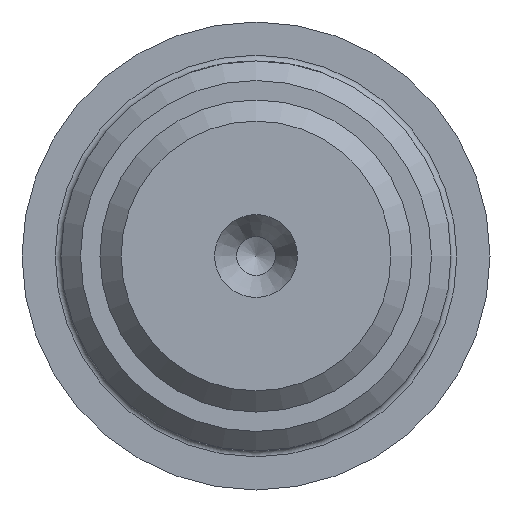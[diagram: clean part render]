
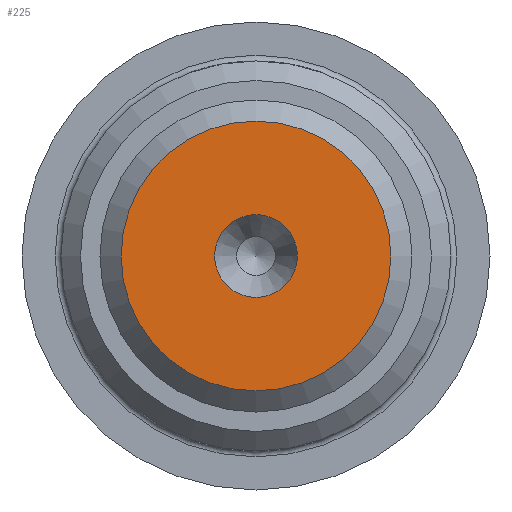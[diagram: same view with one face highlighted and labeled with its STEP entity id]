
A CAD part, left-side view. The second image highlights one B-rep face of the part: STEP entity #225.
In plain terms, the highlighted planar face has unit normal (-1, 0, 0).
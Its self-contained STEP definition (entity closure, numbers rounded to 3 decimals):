
#16=FACE_BOUND('',#55,.T.);
#21=PLANE('',#269);
#39=FACE_OUTER_BOUND('',#54,.T.);
#54=EDGE_LOOP('',(#177));
#55=EDGE_LOOP('',(#178));
#71=CIRCLE('',#263,2.125);
#74=CIRCLE('',#268,6.917);
#108=VERTEX_POINT('',#374);
#115=VERTEX_POINT('',#461);
#130=EDGE_CURVE('',#108,#108,#71,.T.);
#139=EDGE_CURVE('',#115,#115,#74,.T.);
#177=ORIENTED_EDGE('',*,*,#139,.F.);
#178=ORIENTED_EDGE('',*,*,#130,.T.);
#225=ADVANCED_FACE('',(#39,#16),#21,.T.);
#263=AXIS2_PLACEMENT_3D('',#376,#304,#305);
#268=AXIS2_PLACEMENT_3D('',#463,#316,#317);
#269=AXIS2_PLACEMENT_3D('',#464,#318,#319);
#304=DIRECTION('center_axis',(1.,0.,0.));
#305=DIRECTION('ref_axis',(0.,1.,0.));
#316=DIRECTION('center_axis',(1.,0.,0.));
#317=DIRECTION('ref_axis',(0.,-1.,0.));
#318=DIRECTION('center_axis',(-1.,0.,0.));
#319=DIRECTION('ref_axis',(0.,0.,1.));
#374=CARTESIAN_POINT('',(0.,-2.125,0.));
#376=CARTESIAN_POINT('Origin',(0.,0.,0.));
#461=CARTESIAN_POINT('',(0.,6.917,0.));
#463=CARTESIAN_POINT('Origin',(0.,0.,0.));
#464=CARTESIAN_POINT('Origin',(0.,8.,0.));
